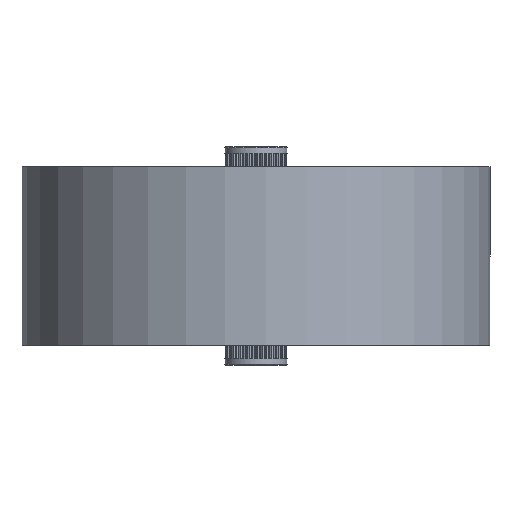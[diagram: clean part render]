
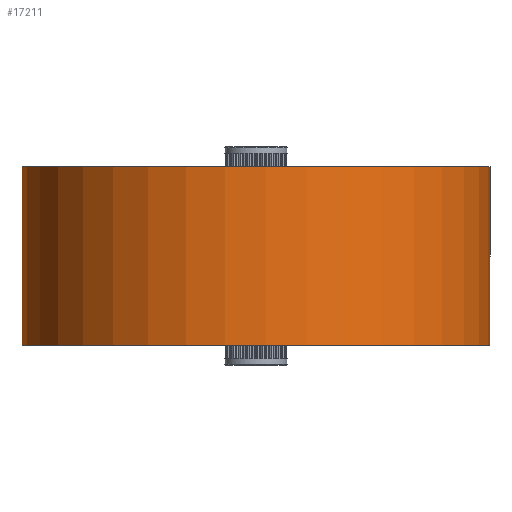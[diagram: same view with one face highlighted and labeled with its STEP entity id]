
A CAD part, front view. The second image highlights one B-rep face of the part: STEP entity #17211.
In plain terms, the highlighted cylindrical face has radius 30 mm (diameter 60 mm), a full revolution.
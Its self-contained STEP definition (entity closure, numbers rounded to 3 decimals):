
#11536=CARTESIAN_POINT('',(30.0,0.,-4.064));
#11537=VERTEX_POINT('',#11536);
#11538=CARTESIAN_POINT('',(0.0,0.0,-4.064));
#11539=DIRECTION('',(0.0,0.0,-1.0));
#11540=DIRECTION('',(-1.0,0.0,0.0));
#11541=AXIS2_PLACEMENT_3D('',#11538,#11539,#11540);
#11542=CIRCLE('',#11541,30.0);
#11543=EDGE_CURVE('',#11537,#11537,#11542,.T.);
#17026=CARTESIAN_POINT('',(30.0,0.,18.856));
#17027=VERTEX_POINT('',#17026);
#17028=CARTESIAN_POINT('',(0.0,0.0,18.856));
#17029=DIRECTION('',(0.0,0.0,1.0));
#17030=DIRECTION('',(-1.0,0.0,0.0));
#17031=AXIS2_PLACEMENT_3D('',#17028,#17029,#17030);
#17032=CIRCLE('',#17031,30.0);
#17033=EDGE_CURVE('',#17027,#17027,#17032,.T.);
#17200=CARTESIAN_POINT('',(0.0,0.0,-4.064));
#17201=DIRECTION('',(0.0,0.0,1.0));
#17202=DIRECTION('',(-1.0,0.0,0.0));
#17203=AXIS2_PLACEMENT_3D('',#17200,#17201,#17202);
#17204=CYLINDRICAL_SURFACE('',#17203,30.0);
#17205=ORIENTED_EDGE('',*,*,#17033,.F.);
#17206=EDGE_LOOP('',(#17205));
#17207=FACE_OUTER_BOUND('',#17206,.T.);
#17208=ORIENTED_EDGE('',*,*,#11543,.F.);
#17209=EDGE_LOOP('',(#17208));
#17210=FACE_BOUND('',#17209,.T.);
#17211=ADVANCED_FACE('',(#17207,#17210),#17204,.T.);
